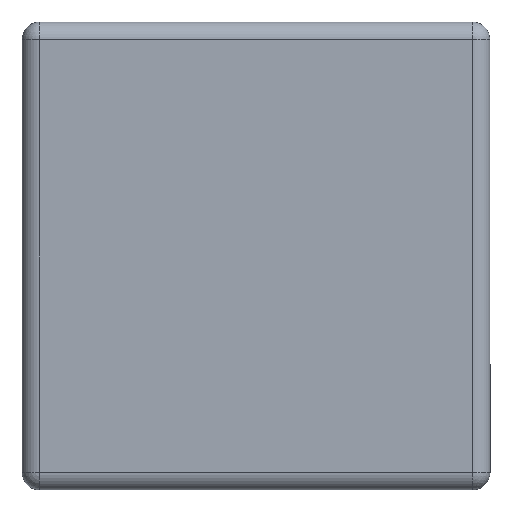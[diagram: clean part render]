
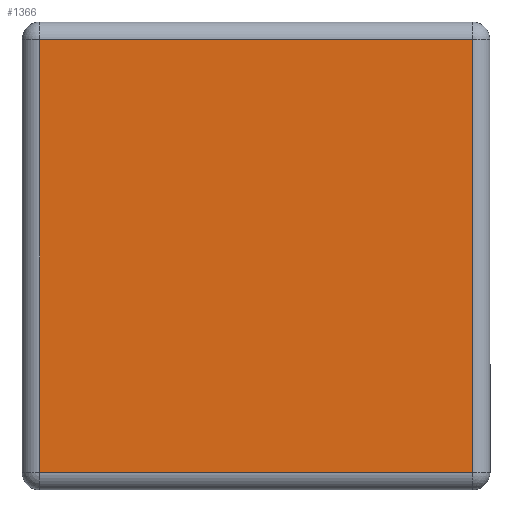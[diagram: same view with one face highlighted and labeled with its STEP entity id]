
A CAD part, front view. The second image highlights one B-rep face of the part: STEP entity #1366.
In plain terms, the highlighted planar face has unit normal (0, -1, 0) as drawn and (0, 0, 1) by its records, which use the part's own axes.
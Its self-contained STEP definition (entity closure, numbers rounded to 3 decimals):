
#10 = VERTEX_POINT ( 'NONE', #1432 ) ;
#74 = DIRECTION ( 'NONE',  ( 0., -1., 0. ) ) ;
#203 = ORIENTED_EDGE ( 'NONE', *, *, #809, .T. ) ;
#225 = DIRECTION ( 'NONE',  ( 1., 0., 0. ) ) ;
#230 = ORIENTED_EDGE ( 'NONE', *, *, #1116, .T. ) ;
#278 = CARTESIAN_POINT ( 'NONE',  ( -37., -40., 3. ) ) ;
#351 = VECTOR ( 'NONE', #904, 1000. ) ;
#354 = VERTEX_POINT ( 'NONE', #1247 ) ;
#489 = ORIENTED_EDGE ( 'NONE', *, *, #1655, .T. ) ;
#571 = CARTESIAN_POINT ( 'NONE',  ( 37., -37., 3. ) ) ;
#642 = CARTESIAN_POINT ( 'NONE',  ( -37., 37., 3. ) ) ;
#676 = LINE ( 'NONE', #1609, #351 ) ;
#681 = VERTEX_POINT ( 'NONE', #642 ) ;
#757 = CARTESIAN_POINT ( 'NONE',  ( 40., -37., 3. ) ) ;
#777 = LINE ( 'NONE', #757, #1416 ) ;
#809 = EDGE_CURVE ( 'NONE', #1176, #10, #676, .T. ) ;
#818 = EDGE_LOOP ( 'NONE', ( #230, #1050, #489, #203 ) ) ;
#866 = LINE ( 'NONE', #278, #1186 ) ;
#872 = DIRECTION ( 'NONE',  ( 0., 0., 1. ) ) ;
#904 = DIRECTION ( 'NONE',  ( 0., 1., 0. ) ) ;
#945 = CARTESIAN_POINT ( 'NONE',  ( -40., 37., 3. ) ) ;
#987 = CARTESIAN_POINT ( 'NONE',  ( 0., 0., 3. ) ) ;
#1037 = DIRECTION ( 'NONE',  ( 1., 0., 0. ) ) ;
#1050 = ORIENTED_EDGE ( 'NONE', *, *, #1613, .T. ) ;
#1088 = AXIS2_PLACEMENT_3D ( 'NONE', #987, #872, #225 ) ;
#1116 = EDGE_CURVE ( 'NONE', #10, #681, #1188, .T. ) ;
#1149 = VECTOR ( 'NONE', #1258, 1000. ) ;
#1176 = VERTEX_POINT ( 'NONE', #571 ) ;
#1186 = VECTOR ( 'NONE', #74, 1000. ) ;
#1188 = LINE ( 'NONE', #945, #1149 ) ;
#1247 = CARTESIAN_POINT ( 'NONE',  ( -37., -37., 3. ) ) ;
#1258 = DIRECTION ( 'NONE',  ( -1., 0., 0. ) ) ;
#1261 = FACE_OUTER_BOUND ( 'NONE', #818, .T. ) ;
#1366 = ADVANCED_FACE ( 'NONE', ( #1261 ), #1534, .T. ) ;
#1416 = VECTOR ( 'NONE', #1037, 1000. ) ;
#1432 = CARTESIAN_POINT ( 'NONE',  ( 37., 37., 3. ) ) ;
#1534 = PLANE ( 'NONE',  #1088 ) ;
#1609 = CARTESIAN_POINT ( 'NONE',  ( 37., 40., 3. ) ) ;
#1613 = EDGE_CURVE ( 'NONE', #681, #354, #866, .T. ) ;
#1655 = EDGE_CURVE ( 'NONE', #354, #1176, #777, .T. ) ;
